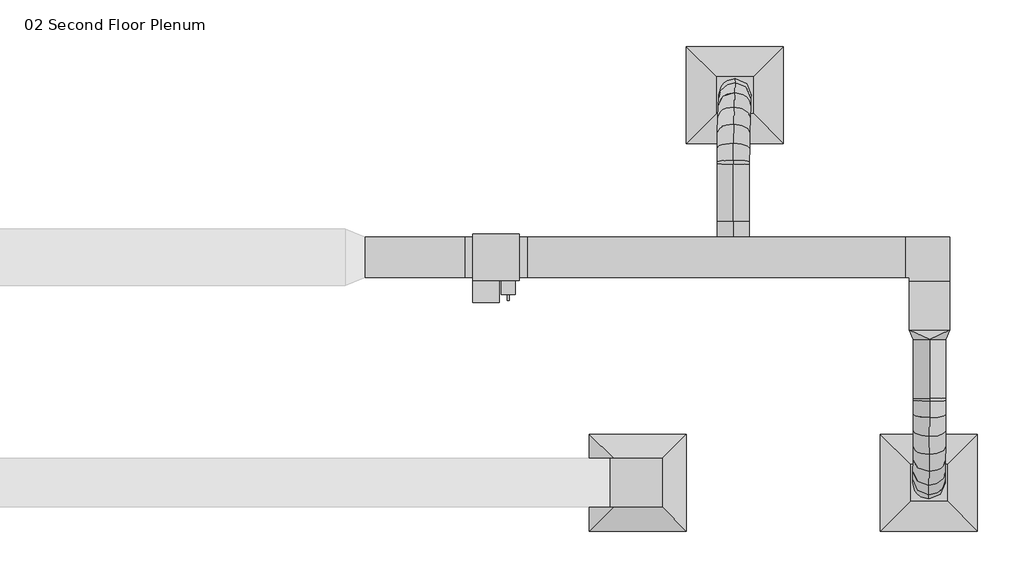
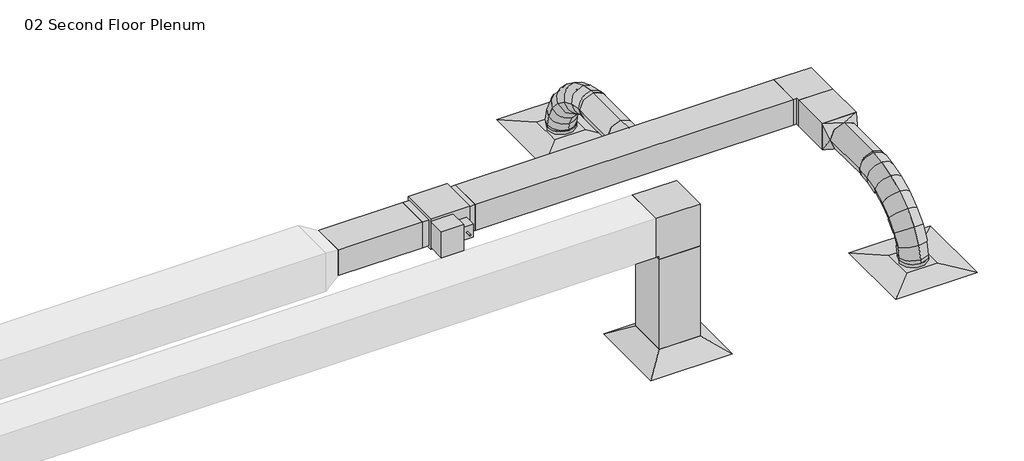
# One storey, part 12 of 12: 8 duct segments, 4 duct fittings, 3 air terminals, 1 proxy.
"""IFC4 building model written with IfcOpenShell, lengths in millimetres."""

from ifc_helpers import new_model, si_unit, point, frame, frame_2d, origin, place, context, project, spatial, polyline, circle_curve, ellipse_curve, trimmed, segment, composite_curve, outline, extrude, transform, mapped, element, save
from ifc_brep_helpers import plane_surface, cylinder_surface, advanced_brep
from components import return_diffuser_d30_returndiffuser_24x24_12x12_connection_ff543d60, supply_diffuser_rectangular_face_round_neck_d30_6390248a, bcn6785_vav_d30_vav1_8c327968, rectangular_elbow_mitered_standard_f09b78ec, rectangular_elbow_mitered_standard_4ff1c4e8, rectangular_to_round_transition_angle_45_degree_e9430680, round_takeoff_standard_d3b0d0f9

model = new_model("IFC4")

# Units and contexts
model_context = context("Model", 3, world=origin())
ifc_project = project(units=[si_unit("LENGTHUNIT", "METRE", prefix="MILLI")], contexts=[model_context])

# Site, building, storey
site = spatial("IfcSite", under=ifc_project)
building = spatial("IfcBuilding", under=site)
storey = spatial("IfcBuildingStorey", under=building, Name="02 Second Floor Plenum", Elevation=3048.0)

# Air terminals
placement = place(None, origin())
return_diffuser_d30_returndiffuser_24x24_12x12_connection_shape = return_diffuser_d30_returndiffuser_24x24_12x12_connection_ff543d60(model_context)
element("IfcAirTerminal", 1, ObjectType="Return Diffuser : D30_ReturnDiffuser_24x24 12x12 Connection", at=placement, inside=storey, context=model_context, shape_type="MappedRepresentation", body=[
    mapped(return_diffuser_d30_returndiffuser_24x24_12x12_connection_shape, transform((17791.3207383, 5144.0921675, 3048.0), x_axis=(0.0, 1.0, 0.0), y_axis=(-1.0, 0.0, 0.0), z_axis=(0.0, 0.0, 1.0))),
])
supply_diffuser_rectangular_face_round_neck_d30_shape = supply_diffuser_rectangular_face_round_neck_d30_6390248a(model_context)
element("IfcAirTerminal", 2, ObjectType="Supply Diffuser - Rectangular Face Round Neck : D30_SupplyDiffuser_24x24 8 Neck", at=placement, inside=storey, context=model_context, shape_type="MappedRepresentation", body=[
    mapped(supply_diffuser_rectangular_face_round_neck_d30_shape, transform((19620.1207383, 5144.0921675, 3048.0), x_axis=(1.0, 0.0, 0.0), y_axis=(0.0, 1.0, 0.0), z_axis=(0.0, 0.0, 1.0))),
])
element("IfcAirTerminal", 3, ObjectType="Supply Diffuser - Rectangular Face Round Neck : D30_SupplyDiffuser_24x24 8 Neck", at=placement, inside=storey, context=model_context, shape_type="MappedRepresentation", body=[
    mapped(supply_diffuser_rectangular_face_round_neck_d30_shape, transform((18400.9207383, 7582.4921675, 3048.0), x_axis=(1.0, 0.0, 0.0), y_axis=(0.0, 1.0, 0.0), z_axis=(0.0, 0.0, 1.0))),
])

# Proxy
bcn6785_vav_d30_vav1_shape = bcn6785_vav_d30_vav1_8c327968(model_context)
element("IfcBuildingElementProxy", 4, Name="BCN6785_VAV : D30_VAV1", ObjectType="BCN6785_VAV : D30_VAV1", at=placement, inside=storey, context=model_context, shape_type="MappedRepresentation", body=[
    mapped(bcn6785_vav_d30_vav1_shape, transform((16754.2057059, 6562.2580171, 3384.55), x_axis=(1.0, 0.0, 0.0), y_axis=(0.0, 1.0, 0.0), z_axis=(0.0, 0.0, 1.0))),
])

# Duct fittings
rectangular_elbow_mitered_standard_shape = rectangular_elbow_mitered_standard_f09b78ec(model_context)
element("IfcDuctFitting", 5, ObjectType="Rectangular Elbow - Mitered : Standard", at=placement, inside=storey, context=model_context, shape_type="MappedRepresentation", body=[
    mapped(rectangular_elbow_mitered_standard_shape, transform((19624.4057059, 6562.2580171, 3505.2), x_axis=(0.0, 1.0, 0.0), y_axis=(-1.0, 0.0, 0.0), z_axis=(0.0, 0.0, 1.0))),
])
rectangular_elbow_mitered_standard_2_shape = rectangular_elbow_mitered_standard_4ff1c4e8(model_context)
element("IfcDuctFitting", 6, ObjectType="Rectangular Elbow - Mitered : Standard", at=placement, inside=storey, context=model_context, shape_type="MappedRepresentation", body=[
    mapped(rectangular_elbow_mitered_standard_2_shape, transform((17791.3207383, 5144.0921675, 4038.6), x_axis=(0.0, 0.0, 1.0), y_axis=(-1.0, 0.0, 0.0), z_axis=(0.0, -1.0, 0.0))),
])
rectangular_to_round_transition_angle_45_degree_shape = rectangular_to_round_transition_angle_45_degree_e9430680(model_context)
element("IfcDuctFitting", 7, ObjectType="Rectangular to Round Transition - Angle : 45 Degree", at=placement, inside=storey, context=model_context, shape_type="MappedRepresentation", body=[
    mapped(rectangular_to_round_transition_angle_45_degree_shape, transform((19624.4057059, 6105.0580171, 3505.2), x_axis=(0.0, -1.0, 0.0), y_axis=(1.0, 0.0, 0.0), z_axis=(0.0, 0.0, 1.0))),
])
round_takeoff_standard_shape = round_takeoff_standard_d3b0d0f9(model_context)
element("IfcDuctFitting", 8, ObjectType="Round Takeoff : Standard", at=placement, inside=storey, context=model_context, shape_type="MappedRepresentation", body=[
    mapped(round_takeoff_standard_shape, transform((18390.079689, 6689.2580171, 3505.2), x_axis=(0.0, 1.0, 0.0), y_axis=(1.0, 0.0, 0.0), z_axis=(0.0, 0.0, -1.0))),
])

# Duct segments
element("IfcDuctSegment", 9, ObjectType="Flex - Round", at=placement, inside=storey, context=model_context, shape_type="AdvancedBrep", body=[
    advanced_brep(
    [(19726.0057059, 5673.2580171, 3505.2), (19624.4057059, 5673.2580171, 3403.6), (19522.8057059, 5673.2580171, 3505.2), (19624.4057059, 5673.2580171, 3606.8), (19726.0057059, 5662.2215462, 3505.2), (19624.4057059, 5668.4942079, 3403.6), (19522.8057059, 5662.4938473, 3505.2), (19624.4057059, 5656.2211856, 3606.8), (19721.7172264, 5143.2474113, 3101.975), (19619.2759822, 5042.4956794, 3101.975), (19518.5242503, 5144.9369236, 3101.975), (19620.9654945, 5245.6886555, 3101.975), (19725.7675584, 5573.6890852, 3494.4663275), (19624.2074999, 5594.8102099, 3394.6665547), (19522.5691341, 5574.5471663, 3494.5373475), (19624.1291925, 5553.4260416, 3594.3371204), (19725.1539044, 5470.6844015, 3463.9424993), (19623.6903614, 5508.0060932, 3368.9435113), (19521.9585116, 5472.0513315, 3464.1643086), (19623.4220546, 5434.7296398, 3559.1632966), (19724.3156295, 5371.0480491, 3416.140479), (19622.977943, 5423.3288987, 3328.3183692), (19521.1227758, 5372.7167791, 3416.5070814), (19622.4604623, 5320.4359295, 3504.3291911), (19723.4029673, 5281.6338857, 3353.5506611), (19622.2173556, 5348.8136085, 3276.1577465), (19520.211516, 5283.4400009, 3354.013433), (19621.3971276, 5216.260278, 3431.4063476), (19722.565917, 5209.2996828, 3278.6618738), (19621.5611629, 5292.1083268, 3217.4498377), (19519.3745556, 5211.1135747, 3279.132697), (19620.3793096, 5128.3049307, 3340.3447331), (19721.9542219, 5160.8947664, 3193.9645238), (19621.1190449, 5257.1224568, 3156.2326991), (19518.7619742, 5162.6385241, 3194.3126284), (19619.5971512, 5066.4108337, 3232.0444531), (19721.7172264, 5143.2474113, 3121.0501108), (19620.9654945, 5245.6886555, 3108.9911209), (19518.5242503, 5144.9369236, 3121.1740873), (19619.2759822, 5042.4956794, 3133.2330772)],
    [
        (0, 1, circle_curve(frame((19624.4057059, 5673.2580171, 3505.2), z_axis=(0.0, 1.0, 0.0), x_axis=(1.0, 0.0, 0.0)), 101.6)),
        (1, 2, circle_curve(frame((19624.4057059, 5673.2580171, 3505.2), z_axis=(0.0, 1.0, 0.0), x_axis=(1.0, 0.0, 0.0)), 101.6)),
        (2, 3, circle_curve(frame((19624.4057059, 5673.2580171, 3505.2), z_axis=(0.0, 1.0, 0.0), x_axis=(1.0, 0.0, 0.0)), 101.6)),
        (3, 0, circle_curve(frame((19624.4057059, 5673.2580171, 3505.2), z_axis=(0.0, 1.0, 0.0), x_axis=(1.0, 0.0, 0.0)), 101.6)),
        (0, 4),
        (4, 5, ellipse_curve(frame((19624.4057059, 5662.3576968, 3505.2), z_axis=(0.00133762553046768, 0.9981800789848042, 0.06028881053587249), x_axis=(-0.022141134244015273, 0.06030364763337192, -0.9979344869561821)), 101.7852411, 101.6)),
        (5, 1),
        (5, 6, ellipse_curve(frame((19624.4057059, 5662.3576968, 3505.2), z_axis=(0.00133762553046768, 0.9981800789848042, 0.06028881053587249), x_axis=(-0.022141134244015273, 0.06030364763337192, -0.9979344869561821)), 101.7852411, 101.6)),
        (6, 2),
        (6, 7, ellipse_curve(frame((19624.4057059, 5662.3576968, 3505.2), z_axis=(0.00133762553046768, 0.9981800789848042, 0.06028881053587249), x_axis=(-0.022141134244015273, 0.06030364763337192, -0.9979344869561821)), 101.7852411, 101.6)),
        (7, 3),
        (7, 4, ellipse_curve(frame((19624.4057059, 5662.3576968, 3505.2), z_axis=(0.00133762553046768, 0.9981800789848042, 0.06028881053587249), x_axis=(-0.022141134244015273, 0.06030364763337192, -0.9979344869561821)), 101.7852411, 101.6)),
        (8, 9, circle_curve(frame((19620.1207383, 5144.0921675, 3101.975), z_axis=(0.0, 0.0, -1.0), x_axis=(0.9999654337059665, -0.0083145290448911, 0.0)), 101.6)),
        (9, 10, circle_curve(frame((19620.1207383, 5144.0921675, 3101.975), z_axis=(0.0, 0.0, -1.0), x_axis=(0.9999654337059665, -0.0083145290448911, 0.0)), 101.6)),
        (10, 11, circle_curve(frame((19620.1207383, 5144.0921675, 3101.975), z_axis=(0.0, 0.0, -1.0), x_axis=(0.9999654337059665, -0.0083145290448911, 0.0)), 101.6)),
        (11, 8, circle_curve(frame((19620.1207383, 5144.0921675, 3101.975), z_axis=(0.0, 0.0, -1.0), x_axis=(0.9999654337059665, -0.0083145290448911, 0.0)), 101.6)),
        (4, 12),
        (12, 13, ellipse_curve(frame((19624.1683462, 5574.1181257, 3494.5018375), z_axis=(0.004205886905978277, 0.9791803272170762, 0.20294875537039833), x_axis=(-0.018183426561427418, 0.20299188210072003, -0.9790115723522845)), 101.9572107, 101.6)),
        (13, 5),
        (13, 14, ellipse_curve(frame((19624.1683462, 5574.1181257, 3494.5018375), z_axis=(0.004205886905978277, 0.9791803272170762, 0.20294875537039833), x_axis=(-0.018183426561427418, 0.20299188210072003, -0.9790115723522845)), 101.9572107, 101.6)),
        (14, 6),
        (14, 15, ellipse_curve(frame((19624.1683462, 5574.1181257, 3494.5018375), z_axis=(0.004205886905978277, 0.9791803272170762, 0.20294875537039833), x_axis=(-0.018183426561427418, 0.20299188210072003, -0.9790115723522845)), 101.9572107, 101.6)),
        (15, 7),
        (15, 12, ellipse_curve(frame((19624.1683462, 5574.1181257, 3494.5018375), z_axis=(0.004205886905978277, 0.9791803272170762, 0.20294875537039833), x_axis=(-0.018183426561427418, 0.20299188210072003, -0.9790115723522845)), 101.9572107, 101.6)),
        (12, 16),
        (16, 17, ellipse_curve(frame((19623.556208, 5471.3678665, 3464.053404), z_axis=(0.0066697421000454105, 0.9331325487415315, 0.3594706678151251), x_axis=(-0.01177651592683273, 0.35952703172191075, -0.9330603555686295)), 101.9229154, 101.6)),
        (17, 13),
        (17, 18, ellipse_curve(frame((19623.556208, 5471.3678665, 3464.053404), z_axis=(0.0066697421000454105, 0.9331325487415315, 0.3594706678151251), x_axis=(-0.01177651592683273, 0.35952703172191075, -0.9330603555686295)), 101.9229154, 101.6)),
        (18, 14),
        (18, 19, ellipse_curve(frame((19623.556208, 5471.3678665, 3464.053404), z_axis=(0.0066697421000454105, 0.9331325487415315, 0.3594706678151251), x_axis=(-0.01177651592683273, 0.35952703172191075, -0.9330603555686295)), 101.9229154, 101.6)),
        (19, 15),
        (19, 16, ellipse_curve(frame((19623.556208, 5471.3678665, 3464.053404), z_axis=(0.0066697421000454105, 0.9331325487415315, 0.3594706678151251), x_axis=(-0.01177651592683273, 0.35952703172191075, -0.9330603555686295)), 101.9229154, 101.6)),
        (16, 20),
        (20, 21, ellipse_curve(frame((19622.7192027, 5371.8824141, 3416.3237802), z_axis=(0.008000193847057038, 0.8632710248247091, 0.5046772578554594), x_axis=(-0.00475714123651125, 0.5047205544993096, -0.863269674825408)), 101.9400009, 101.6)),
        (21, 17),
        (21, 22, ellipse_curve(frame((19622.7192027, 5371.8824141, 3416.3237802), z_axis=(0.008000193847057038, 0.8632710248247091, 0.5046772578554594), x_axis=(-0.00475714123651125, 0.5047205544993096, -0.863269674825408)), 101.9400009, 101.6)),
        (22, 18),
        (22, 23, ellipse_curve(frame((19622.7192027, 5371.8824141, 3416.3237802), z_axis=(0.008000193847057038, 0.8632710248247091, 0.5046772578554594), x_axis=(-0.00475714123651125, 0.5047205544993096, -0.863269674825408)), 101.9400009, 101.6)),
        (23, 19),
        (23, 20, ellipse_curve(frame((19622.7192027, 5371.8824141, 3416.3237802), z_axis=(0.008000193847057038, 0.8632710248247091, 0.5046772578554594), x_axis=(-0.00475714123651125, 0.5047205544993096, -0.863269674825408)), 101.9400009, 101.6)),
        (20, 24),
        (24, 25, ellipse_curve(frame((19621.8072416, 5282.5369433, 3353.782047), z_axis=(0.008238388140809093, 0.760459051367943, 0.6493336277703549), x_axis=(0.0016823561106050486, 0.6493442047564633, -0.7604927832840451)), 102.0700598, 101.6)),
        (25, 21),
        (25, 26, ellipse_curve(frame((19621.8072416, 5282.5369433, 3353.782047), z_axis=(0.008238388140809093, 0.760459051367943, 0.6493336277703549), x_axis=(0.0016823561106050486, 0.6493442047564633, -0.7604927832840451)), 102.0700598, 101.6)),
        (26, 22),
        (26, 27, ellipse_curve(frame((19621.8072416, 5282.5369433, 3353.782047), z_axis=(0.008238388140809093, 0.760459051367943, 0.6493336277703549), x_axis=(0.0016823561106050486, 0.6493442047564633, -0.7604927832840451)), 102.0700598, 101.6)),
        (27, 23),
        (27, 24, ellipse_curve(frame((19621.8072416, 5282.5369433, 3353.782047), z_axis=(0.008238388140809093, 0.760459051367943, 0.6493336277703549), x_axis=(0.0016823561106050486, 0.6493442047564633, -0.7604927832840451)), 102.0700598, 101.6)),
        (24, 28),
        (28, 29, ellipse_curve(frame((19620.9702363, 5210.2066288, 3278.8972854), z_axis=(0.007210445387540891, 0.6000834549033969, 0.7999049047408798), x_axis=(0.0071269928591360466, 0.7998745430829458, -0.6001249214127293)), 102.3915351, 101.6)),
        (29, 25),
        (29, 30, ellipse_curve(frame((19620.9702363, 5210.2066288, 3278.8972854), z_axis=(0.007210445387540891, 0.6000834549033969, 0.7999049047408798), x_axis=(0.0071269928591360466, 0.7998745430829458, -0.6001249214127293)), 102.3915351, 101.6)),
        (30, 26),
        (30, 31, ellipse_curve(frame((19620.9702363, 5210.2066288, 3278.8972854), z_axis=(0.007210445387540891, 0.6000834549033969, 0.7999049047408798), x_axis=(0.0071269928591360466, 0.7998745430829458, -0.6001249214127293)), 102.3915351, 101.6)),
        (31, 27),
        (31, 28, ellipse_curve(frame((19620.9702363, 5210.2066288, 3278.8972854), z_axis=(0.007210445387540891, 0.6000834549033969, 0.7999049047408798), x_axis=(0.0071269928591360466, 0.7998745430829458, -0.6001249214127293)), 102.3915351, 101.6)),
        (28, 32),
        (32, 33, ellipse_curve(frame((19620.3580981, 5161.7666453, 3194.1385761), z_axis=(0.00476184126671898, 0.3693664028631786, 0.9292716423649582), x_axis=(0.011078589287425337, 0.9292056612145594, -0.36939694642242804)), 102.6166077, 101.6)),
        (33, 29),
        (33, 34, ellipse_curve(frame((19620.3580981, 5161.7666453, 3194.1385761), z_axis=(0.00476184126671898, 0.3693664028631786, 0.9292716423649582), x_axis=(0.011078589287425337, 0.9292056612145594, -0.36939694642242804)), 102.6166077, 101.6)),
        (34, 30),
        (34, 35, ellipse_curve(frame((19620.3580981, 5161.7666453, 3194.1385761), z_axis=(0.00476184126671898, 0.3693664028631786, 0.9292716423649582), x_axis=(0.011078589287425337, 0.9292056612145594, -0.36939694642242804)), 102.6166077, 101.6)),
        (35, 31),
        (35, 32, ellipse_curve(frame((19620.3580981, 5161.7666453, 3194.1385761), z_axis=(0.00476184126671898, 0.3693664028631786, 0.9292716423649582), x_axis=(0.011078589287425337, 0.9292056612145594, -0.36939694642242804)), 102.6166077, 101.6)),
        (32, 36),
        (36, 37, ellipse_curve(frame((19620.1207383, 5144.0921675, 3121.1120991), z_axis=(0.00159075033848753, 0.11845178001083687, 0.9929585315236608), x_axis=(0.013333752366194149, 0.9928690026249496, -0.11846246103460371)), 102.3204865, 101.6)),
        (37, 33),
        (37, 38, ellipse_curve(frame((19620.1207383, 5144.0921675, 3121.1120991), z_axis=(0.00159075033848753, 0.11845178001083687, 0.9929585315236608), x_axis=(0.013333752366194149, 0.9928690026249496, -0.11846246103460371)), 102.3204865, 101.6)),
        (38, 34),
        (38, 39, ellipse_curve(frame((19620.1207383, 5144.0921675, 3121.1120991), z_axis=(0.00159075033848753, 0.11845178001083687, 0.9929585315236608), x_axis=(0.013333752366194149, 0.9928690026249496, -0.11846246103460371)), 102.3204865, 101.6)),
        (39, 35),
        (39, 36, ellipse_curve(frame((19620.1207383, 5144.0921675, 3121.1120991), z_axis=(0.00159075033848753, 0.11845178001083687, 0.9929585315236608), x_axis=(0.013333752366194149, 0.9928690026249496, -0.11846246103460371)), 102.3204865, 101.6)),
        (36, 8),
        (11, 37),
        (10, 38),
        (9, 39),
    ],
    [
        plane_surface(frame((19522.8057059, 5673.2580171, 3505.2), z_axis=(0.0, 1.0, 0.0), x_axis=(0.0, 0.0, -1.0))),
        cylinder_surface(frame((19624.4057059, 5673.2580171, 3505.2), z_axis=(0.0, 1.0, 0.0), x_axis=(1.0, 0.0, 0.0)), 101.6),
        plane_surface(frame((19620.1207383, 5042.4921675, 3101.975), z_axis=(0.0, 0.0, -1.0), x_axis=(-1.0, 0.0, 0.0))),
        cylinder_surface(frame((19624.4057059, 5662.3576968, 3505.2), z_axis=(0.0026703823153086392, 0.9927269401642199, 0.1203581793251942), x_axis=(0.9999964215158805, -0.0026703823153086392, -0.0001612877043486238)), 101.6),
        cylinder_surface(frame((19624.1683462, 5574.1181257, 3494.5018375), z_axis=(0.005711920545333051, 0.9587725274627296, 0.28411725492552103), x_axis=(0.9999833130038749, -0.0057221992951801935, -0.0007938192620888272)), 101.6),
        cylinder_surface(frame((19623.556208, 5471.3678665, 3464.053404), z_axis=(0.0075853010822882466, 0.9015798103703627, 0.4325463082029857), x_axis=(0.999969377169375, -0.007671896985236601, -0.0015449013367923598)), 101.6),
        cylinder_surface(frame((19622.7192027, 5371.8824141, 3416.3237802), z_axis=(0.00836172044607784, 0.8192036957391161, 0.5734417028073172), x_axis=(0.9999598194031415, -0.008703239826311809, -0.0021478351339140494)), 101.6),
        cylinder_surface(frame((19621.8072416, 5282.5369433, 3353.782047), z_axis=(0.008039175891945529, 0.6947101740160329, 0.7192448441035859), x_axis=(0.9999561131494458, -0.009045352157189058, -0.002439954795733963)), 101.6),
        cylinder_surface(frame((19620.9702363, 5210.2066288, 3278.8972854), z_axis=(0.006270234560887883, 0.49617887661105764, 0.868197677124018), x_axis=(0.999958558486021, -0.008841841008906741, -0.0021686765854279)), 101.6),
        cylinder_surface(frame((19620.3580981, 5161.7666453, 3194.1385761), z_axis=(0.0031590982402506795, 0.23523541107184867, 0.9719332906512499), x_axis=(0.9999635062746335, -0.008458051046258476, -0.0012031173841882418)), 101.6),
        cylinder_surface(frame((19620.1207383, 5144.0921675, 3121.1120991), z_axis=(0.0, 0.0, 1.0), x_axis=(0.9999654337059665, -0.0083145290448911, 0.0)), 101.6),
    ],
    [
        (0, [[1, 2, 3, 4]]),
        (1, [[-1, 5, 6, 7]]),
        (1, [[-2, -7, 8, 9]]),
        (1, [[-3, -9, 10, 11]]),
        (1, [[-4, -11, 12, -5]]),
        (2, [[13, 14, 15, 16]]),
        (3, [[-6, 17, 18, 19]]),
        (3, [[-8, -19, 20, 21]]),
        (3, [[-10, -21, 22, 23]]),
        (3, [[-12, -23, 24, -17]]),
        (4, [[-18, 25, 26, 27]]),
        (4, [[-20, -27, 28, 29]]),
        (4, [[-22, -29, 30, 31]]),
        (4, [[-24, -31, 32, -25]]),
        (5, [[-26, 33, 34, 35]]),
        (5, [[-28, -35, 36, 37]]),
        (5, [[-30, -37, 38, 39]]),
        (5, [[-32, -39, 40, -33]]),
        (6, [[-34, 41, 42, 43]]),
        (6, [[-36, -43, 44, 45]]),
        (6, [[-38, -45, 46, 47]]),
        (6, [[-40, -47, 48, -41]]),
        (7, [[-42, 49, 50, 51]]),
        (7, [[-44, -51, 52, 53]]),
        (7, [[-46, -53, 54, 55]]),
        (7, [[-48, -55, 56, -49]]),
        (8, [[-50, 57, 58, 59]]),
        (8, [[-52, -59, 60, 61]]),
        (8, [[-54, -61, 62, 63]]),
        (8, [[-56, -63, 64, -57]]),
        (9, [[-58, 65, 66, 67]]),
        (9, [[-60, -67, 68, 69]]),
        (9, [[-62, -69, 70, 71]]),
        (9, [[-64, -71, 72, -65]]),
        (10, [[-66, 73, -16, 74]]),
        (10, [[-68, -74, -15, 75]]),
        (10, [[-70, -75, -14, 76]]),
        (10, [[-72, -76, -13, -73]]),
    ],
),
])
element("IfcDuctSegment", 10, ObjectType="Flex - Round", at=placement, inside=storey, context=model_context, shape_type="AdvancedBrep", body=[
    advanced_brep(
    [(18288.479689, 7146.4580171, 3505.2), (18390.079689, 7146.4580171, 3403.6), (18491.679689, 7146.4580171, 3505.2), (18390.079689, 7146.4580171, 3606.8), (18288.479689, 7162.9371521, 3505.2), (18390.079689, 7152.9187405, 3403.6), (18491.679689, 7161.9862739, 3505.2), (18390.079689, 7172.0046855, 3606.8), (18299.3483779, 7584.8618909, 3101.975), (18403.2904617, 7684.0645279, 3101.975), (18502.4930988, 7580.1224441, 3101.975), (18398.5510149, 7480.919807, 3101.975), (18289.291684, 7248.9303578, 3488.9017057), (18390.6849964, 7217.0229763, 3391.4503227), (18492.4737753, 7246.082882, 3489.2611679), (18391.080463, 7277.9902635, 3586.712551), (18291.3139409, 7349.6573191, 3444.1560436), (18392.2763616, 7296.2875785, 3356.2388256), (18494.4667219, 7345.3499255, 3445.1640411), (18393.5043012, 7398.7196661, 3533.0812591), (18293.9339054, 7441.2309472, 3377.0751154), (18394.3902451, 7370.1725396, 3302.1154729), (18497.0665219, 7436.2187554, 3378.5994025), (18396.6101822, 7507.2771629, 3453.5590451), (18296.5459392, 7516.0138273, 3293.6836973), (18396.4706968, 7429.7361553, 3235.6952659), (18499.6742526, 7510.8784403, 3295.345361), (18399.749495, 7597.1561124, 3353.3337924), (18298.5494148, 7566.4072059, 3199.9554954), (18397.9949465, 7468.0755752, 3164.3865941), (18501.6859805, 7561.4793879, 3201.2310952), (18402.2404488, 7659.8110185, 3236.7999966), (18299.3483779, 7584.8618909, 3120.5398799), (18398.5510149, 7480.919807, 3109.114311), (18502.4930988, 7580.1224441, 3121.0048664), (18403.2904617, 7684.0645279, 3132.4304352)],
    [
        (0, 1, circle_curve(frame((18390.079689, 7146.4580171, 3505.2), z_axis=(0.0, -1.0, 0.0), x_axis=(-1.0, 0.0, 0.0)), 101.6)),
        (1, 2, circle_curve(frame((18390.079689, 7146.4580171, 3505.2), z_axis=(0.0, -1.0, 0.0), x_axis=(-1.0, 0.0, 0.0)), 101.6)),
        (2, 3, circle_curve(frame((18390.079689, 7146.4580171, 3505.2), z_axis=(0.0, -1.0, 0.0), x_axis=(-1.0, 0.0, 0.0)), 101.6)),
        (3, 0, circle_curve(frame((18390.079689, 7146.4580171, 3505.2), z_axis=(0.0, -1.0, 0.0), x_axis=(-1.0, 0.0, 0.0)), 101.6)),
        (0, 4),
        (4, 5, ellipse_curve(frame((18390.079689, 7162.461713, 3505.2), z_axis=(-0.004658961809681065, -0.9956070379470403, 0.09351427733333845), x_axis=(0.049540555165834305, -0.09363026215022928, -0.9943737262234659)), 102.0482943, 101.6)),
        (5, 1),
        (5, 6, ellipse_curve(frame((18390.079689, 7162.461713, 3505.2), z_axis=(-0.004658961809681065, -0.9956070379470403, 0.09351427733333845), x_axis=(0.049540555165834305, -0.09363026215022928, -0.9943737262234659)), 102.0482943, 101.6)),
        (6, 2),
        (6, 7, ellipse_curve(frame((18390.079689, 7162.461713, 3505.2), z_axis=(-0.004658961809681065, -0.9956070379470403, 0.09351427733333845), x_axis=(0.049540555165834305, -0.09363026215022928, -0.9943737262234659)), 102.0482943, 101.6)),
        (7, 3),
        (7, 4, ellipse_curve(frame((18390.079689, 7162.461713, 3505.2), z_axis=(-0.004658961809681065, -0.9956070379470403, 0.09351427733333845), x_axis=(0.049540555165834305, -0.09363026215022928, -0.9943737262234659)), 102.0482943, 101.6)),
        (8, 9, circle_curve(frame((18400.9207383, 7582.4921675, 3101.975), z_axis=(0.0, 0.0, -1.0), x_axis=(-0.9997279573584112, 0.02332404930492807, 0.0)), 101.6)),
        (9, 10, circle_curve(frame((18400.9207383, 7582.4921675, 3101.975), z_axis=(0.0, 0.0, -1.0), x_axis=(-0.9997279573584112, 0.02332404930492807, 0.0)), 101.6)),
        (10, 11, circle_curve(frame((18400.9207383, 7582.4921675, 3101.975), z_axis=(0.0, 0.0, -1.0), x_axis=(-0.9997279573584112, 0.02332404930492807, 0.0)), 101.6)),
        (11, 8, circle_curve(frame((18400.9207383, 7582.4921675, 3101.975), z_axis=(0.0, 0.0, -1.0), x_axis=(-0.9997279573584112, 0.02332404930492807, 0.0)), 101.6)),
        (4, 12),
        (12, 13, ellipse_curve(frame((18390.8827297, 7247.5066199, 3489.0814368), z_axis=(-0.013903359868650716, -0.9544522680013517, 0.2980395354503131), x_axis=(0.03935997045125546, -0.2983597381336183, -0.9536415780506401)), 102.2808191, 101.6)),
        (13, 5),
        (13, 14, ellipse_curve(frame((18390.8827297, 7247.5066199, 3489.0814368), z_axis=(-0.013903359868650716, -0.9544522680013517, 0.2980395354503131), x_axis=(0.03935997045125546, -0.2983597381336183, -0.9536415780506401)), 102.2808191, 101.6)),
        (14, 6),
        (14, 15, ellipse_curve(frame((18390.8827297, 7247.5066199, 3489.0814368), z_axis=(-0.013903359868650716, -0.9544522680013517, 0.2980395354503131), x_axis=(0.03935997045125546, -0.2983597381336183, -0.9536415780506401)), 102.2808191, 101.6)),
        (15, 7),
        (15, 12, ellipse_curve(frame((18390.8827297, 7247.5066199, 3489.0814368), z_axis=(-0.013903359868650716, -0.9544522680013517, 0.2980395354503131), x_axis=(0.03935997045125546, -0.2983597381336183, -0.9536415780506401)), 102.2808191, 101.6)),
        (12, 16),
        (16, 17, ellipse_curve(frame((18392.8903314, 7347.5036223, 3444.6600424), z_axis=(-0.020828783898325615, -0.865070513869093, 0.5012176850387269), x_axis=(0.022123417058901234, -0.5016024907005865, -0.8648152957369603)), 102.185455, 101.6)),
        (17, 13),
        (17, 18, ellipse_curve(frame((18392.8903314, 7347.5036223, 3444.6600424), z_axis=(-0.020828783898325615, -0.865070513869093, 0.5012176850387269), x_axis=(0.022123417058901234, -0.5016024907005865, -0.8648152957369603)), 102.185455, 101.6)),
        (18, 14),
        (18, 19, ellipse_curve(frame((18392.8903314, 7347.5036223, 3444.6600424), z_axis=(-0.020828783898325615, -0.865070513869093, 0.5012176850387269), x_axis=(0.022123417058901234, -0.5016024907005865, -0.8648152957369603)), 102.185455, 101.6)),
        (19, 15),
        (19, 16, ellipse_curve(frame((18392.8903314, 7347.5036223, 3444.6600424), z_axis=(-0.020828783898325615, -0.865070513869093, 0.5012176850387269), x_axis=(0.022123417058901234, -0.5016024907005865, -0.8648152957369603)), 102.185455, 101.6)),
        (16, 20),
        (20, 21, ellipse_curve(frame((18395.5002137, 7438.7248513, 3377.837259), z_axis=(-0.023318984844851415, -0.740958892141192, 0.6711453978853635), x_axis=(0.00115256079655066, -0.6713474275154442, -0.7411418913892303)), 102.1491885, 101.6)),
        (21, 17),
        (21, 22, ellipse_curve(frame((18395.5002137, 7438.7248513, 3377.837259), z_axis=(-0.023318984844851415, -0.740958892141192, 0.6711453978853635), x_axis=(0.00115256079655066, -0.6713474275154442, -0.7411418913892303)), 102.1491885, 101.6)),
        (22, 18),
        (22, 23, ellipse_curve(frame((18395.5002137, 7438.7248513, 3377.837259), z_axis=(-0.023318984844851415, -0.740958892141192, 0.6711453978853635), x_axis=(0.00115256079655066, -0.6713474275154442, -0.7411418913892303)), 102.1491885, 101.6)),
        (23, 19),
        (23, 20, ellipse_curve(frame((18395.5002137, 7438.7248513, 3377.837259), z_axis=(-0.023318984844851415, -0.740958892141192, 0.6711453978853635), x_axis=(0.00115256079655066, -0.6713474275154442, -0.7411418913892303)), 102.1491885, 101.6)),
        (20, 24),
        (24, 25, ellipse_curve(frame((18398.1100959, 7513.4461338, 3294.5145291), z_axis=(-0.02121786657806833, -0.5745119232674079, 0.8182211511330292), x_axis=(-0.01893196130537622, -0.8180277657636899, -0.5748670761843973)), 102.3218214, 101.6)),
        (25, 21),
        (25, 26, ellipse_curve(frame((18398.1100959, 7513.4461338, 3294.5145291), z_axis=(-0.02121786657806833, -0.5745119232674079, 0.8182211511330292), x_axis=(-0.01893196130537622, -0.8180277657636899, -0.5748670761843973)), 102.3218214, 101.6)),
        (26, 22),
        (26, 27, ellipse_curve(frame((18398.1100959, 7513.4461338, 3294.5145291), z_axis=(-0.02121786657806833, -0.5745119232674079, 0.8182211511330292), x_axis=(-0.01893196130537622, -0.8180277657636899, -0.5748670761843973)), 102.3218214, 101.6)),
        (27, 23),
        (27, 24, ellipse_curve(frame((18398.1100959, 7513.4461338, 3294.5145291), z_axis=(-0.02121786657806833, -0.5745119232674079, 0.8182211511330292), x_axis=(-0.01893196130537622, -0.8180277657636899, -0.5748670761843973)), 102.3218214, 101.6)),
        (24, 28),
        (28, 29, ellipse_curve(frame((18400.1176976, 7563.9432969, 3200.5932953), z_axis=(-0.014437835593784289, -0.3529986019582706, 0.9355124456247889), x_axis=(-0.03414002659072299, -0.9348904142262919, -0.35329077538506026)), 102.4991954, 101.6)),
        (29, 25),
        (29, 30, ellipse_curve(frame((18400.1176976, 7563.9432969, 3200.5932953), z_axis=(-0.014437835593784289, -0.3529986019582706, 0.9355124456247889), x_axis=(-0.03414002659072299, -0.9348904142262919, -0.35329077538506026)), 102.4991954, 101.6)),
        (30, 26),
        (30, 31, ellipse_curve(frame((18400.1176976, 7563.9432969, 3200.5932953), z_axis=(-0.014437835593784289, -0.3529986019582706, 0.9355124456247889), x_axis=(-0.03414002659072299, -0.9348904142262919, -0.35329077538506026)), 102.4991954, 101.6)),
        (31, 27),
        (31, 28, ellipse_curve(frame((18400.1176976, 7563.9432969, 3200.5932953), z_axis=(-0.014437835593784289, -0.3529986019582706, 0.9355124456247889), x_axis=(-0.03414002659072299, -0.9348904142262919, -0.35329077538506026)), 102.4991954, 101.6)),
        (28, 32),
        (32, 33, ellipse_curve(frame((18400.9207383, 7582.4921675, 3120.7723731), z_axis=(-0.004931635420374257, -0.11391236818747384, 0.9934785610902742), x_axis=(-0.04297065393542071, -0.9925488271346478, -0.11401907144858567)), 102.2669275, 101.6)),
        (33, 29),
        (33, 34, ellipse_curve(frame((18400.9207383, 7582.4921675, 3120.7723731), z_axis=(-0.004931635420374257, -0.11391236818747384, 0.9934785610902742), x_axis=(-0.04297065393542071, -0.9925488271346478, -0.11401907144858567)), 102.2669275, 101.6)),
        (34, 30),
        (34, 35, ellipse_curve(frame((18400.9207383, 7582.4921675, 3120.7723731), z_axis=(-0.004931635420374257, -0.11391236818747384, 0.9934785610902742), x_axis=(-0.04297065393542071, -0.9925488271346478, -0.11401907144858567)), 102.2669275, 101.6)),
        (35, 31),
        (35, 32, ellipse_curve(frame((18400.9207383, 7582.4921675, 3120.7723731), z_axis=(-0.004931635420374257, -0.11391236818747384, 0.9934785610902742), x_axis=(-0.04297065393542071, -0.9925488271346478, -0.11401907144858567)), 102.2669275, 101.6)),
        (32, 8),
        (11, 33),
        (10, 34),
        (9, 35),
    ],
    [
        plane_surface(frame((18288.479689, 7146.4580171, 3505.2), z_axis=(0.0, -1.0, 0.0), x_axis=(0.0, 0.0, 1.0))),
        cylinder_surface(frame((18390.079689, 7146.4580171, 3505.2), z_axis=(0.0, -1.0, 0.0), x_axis=(-1.0, 0.0, 0.0)), 101.6),
        plane_surface(frame((18400.9207383, 7480.8921675, 3101.975), z_axis=(0.0, 0.0, -1.0), x_axis=(-1.0, 0.0, 0.0))),
        cylinder_surface(frame((18390.079689, 7162.461713, 3505.2), z_axis=(-0.009276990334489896, -0.9824667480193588, 0.1862069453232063), x_axis=(-0.9999565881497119, 0.009276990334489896, -0.000871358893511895)), 101.6),
        cylinder_surface(frame((18390.8827297, 7247.5066199, 3489.0814368), z_axis=(-0.018344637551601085, -0.9137314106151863, 0.40590440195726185), x_axis=(-0.9998234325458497, 0.018417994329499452, -0.003725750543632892)), 101.6),
        cylinder_surface(frame((18392.8903314, 7347.5036223, 3444.6600424), z_axis=(-0.023074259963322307, -0.8064970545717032, 0.5907876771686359), x_axis=(-0.9996974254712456, 0.023651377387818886, -0.006757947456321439)), 101.6),
        cylinder_surface(frame((18395.5002137, 7438.7248513, 3377.837259), z_axis=(-0.023312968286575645, -0.6674534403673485, 0.744286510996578), x_axis=(-0.9996390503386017, 0.025506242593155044, -0.008438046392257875)), 101.6),
        cylinder_surface(frame((18398.1100959, 7513.4461338, 3294.5145291), z_axis=(-0.018823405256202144, -0.47346470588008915, 0.8806116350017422), x_axis=(-0.9996538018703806, 0.02510681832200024, -0.007869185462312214)), 101.6),
        cylinder_surface(frame((18400.1176976, 7563.9432969, 3200.5932953), z_axis=(-0.009798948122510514, -0.22633899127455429, 0.9739993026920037), x_axis=(-0.9997055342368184, 0.023841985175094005, -0.004517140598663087)), 101.6),
        cylinder_surface(frame((18400.9207383, 7582.4921675, 3120.7723731), z_axis=(0.0, 0.0, 1.0), x_axis=(-0.9997279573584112, 0.02332404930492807, 0.0)), 101.6),
    ],
    [
        (0, [[1, 2, 3, 4]]),
        (1, [[-1, 5, 6, 7]]),
        (1, [[-2, -7, 8, 9]]),
        (1, [[-3, -9, 10, 11]]),
        (1, [[-4, -11, 12, -5]]),
        (2, [[13, 14, 15, 16]]),
        (3, [[-6, 17, 18, 19]]),
        (3, [[-8, -19, 20, 21]]),
        (3, [[-10, -21, 22, 23]]),
        (3, [[-12, -23, 24, -17]]),
        (4, [[-18, 25, 26, 27]]),
        (4, [[-20, -27, 28, 29]]),
        (4, [[-22, -29, 30, 31]]),
        (4, [[-24, -31, 32, -25]]),
        (5, [[-26, 33, 34, 35]]),
        (5, [[-28, -35, 36, 37]]),
        (5, [[-30, -37, 38, 39]]),
        (5, [[-32, -39, 40, -33]]),
        (6, [[-34, 41, 42, 43]]),
        (6, [[-36, -43, 44, 45]]),
        (6, [[-38, -45, 46, 47]]),
        (6, [[-40, -47, 48, -41]]),
        (7, [[-42, 49, 50, 51]]),
        (7, [[-44, -51, 52, 53]]),
        (7, [[-46, -53, 54, 55]]),
        (7, [[-48, -55, 56, -49]]),
        (8, [[-50, 57, 58, 59]]),
        (8, [[-52, -59, 60, 61]]),
        (8, [[-54, -61, 62, 63]]),
        (8, [[-56, -63, 64, -57]]),
        (9, [[-58, 65, -16, 66]]),
        (9, [[-60, -66, -15, 67]]),
        (9, [[-62, -67, -14, 68]]),
        (9, [[-64, -68, -13, -65]]),
    ],
),
])
element("IfcDuctSegment", 11, ObjectType="Mitered Elbows / Taps", at=placement, inside=storey, context=model_context, shape_type="SweptSolid", body=[
    extrude(outline(polyline([(17943.7207383, 5296.4921675), (17943.7207383, 4991.6921675), (17638.9207383, 4991.6921675), (17638.9207383, 5296.4921675), (17943.7207383, 5296.4921675)])), frame((0.0, 0.0, 3149.6), z_axis=(0.0, 0.0, 1.0), x_axis=(1.0, 0.0, 0.0)), (0.0, 0.0, 1.0), 711.2),
])
element("IfcDuctSegment", 12, ObjectType="Mitered Elbows / Tees", at=placement, inside=storey, context=model_context, shape_type="SweptSolid", body=[
    extrude(outline(polyline([(16074.9238148, 6435.2580171), (16074.9238148, 6689.2580171), (16703.4057059, 6689.2580171), (16703.4057059, 6435.2580171), (16074.9238148, 6435.2580171)])), frame((0.0, 0.0, 3403.6), z_axis=(0.0, 0.0, 1.0), x_axis=(1.0, 0.0, 0.0)), (0.0, 0.0, 1.0), 203.2),
])
element("IfcDuctSegment", 13, ObjectType="Mitered Elbows / Tees", at=placement, inside=storey, context=model_context, shape_type="SweptSolid", body=[
    extrude(outline(polyline([(17097.1057059, 6435.2580171), (17097.1057059, 6689.2580171), (19472.0057059, 6689.2580171), (19472.0057059, 6435.2580171), (17097.1057059, 6435.2580171)])), frame((0.0, 0.0, 3403.6), z_axis=(0.0, 0.0, 1.0), x_axis=(1.0, 0.0, 0.0)), (0.0, 0.0, 1.0), 203.2),
])
element("IfcDuctSegment", 14, ObjectType="Mitered Elbows / Tees", at=placement, inside=storey, context=model_context, shape_type="SweptSolid", body=[
    extrude(outline(polyline([(19497.4057059, 6409.8580171), (19751.4057059, 6409.8580171), (19751.4057059, 6105.0580171), (19497.4057059, 6105.0580171), (19497.4057059, 6409.8580171)])), frame((0.0, 0.0, 3403.6), z_axis=(0.0, 0.0, 1.0), x_axis=(1.0, 0.0, 0.0)), (0.0, 0.0, 1.0), 203.2),
])
element("IfcDuctSegment", 15, ObjectType="Taps", at=placement, inside=storey, context=model_context, shape_type="SweptSolid", body=[
    extrude(outline(composite_curve([segment(trimmed(circle_curve(frame_2d((3505.2, 19624.4057059)), 101.6), [point((3505.2, 19522.8057059))], [point((3403.6, 19624.4057059))], False, "CARTESIAN"), True, "CONTINUOUS"), segment(trimmed(circle_curve(frame_2d((3505.2, 19624.4057059)), 101.6), [point((3403.6, 19624.4057059))], [point((3505.2, 19726.0057059))], False, "CARTESIAN"), True, "CONTINUOUS"), segment(trimmed(circle_curve(frame_2d((3505.2, 19624.4057059)), 101.6), [point((3505.2, 19726.0057059))], [point((3606.8, 19624.4057059))], False, "CARTESIAN"), True, "CONTINUOUS"), segment(trimmed(circle_curve(frame_2d((3505.2, 19624.4057059)), 101.6), [point((3606.8, 19624.4057059))], [point((3505.2, 19522.8057059))], False, "CARTESIAN"), True, "CONTINUOUS")], self_intersect=False)), frame((0.0, 5673.2580171, 0.0), z_axis=(0.0, 1.0, 0.0), x_axis=(0.0, 0.0, 1.0)), (0.0, 0.0, 1.0), 370.4789755),
])
element("IfcDuctSegment", 16, ObjectType="Taps", at=placement, inside=storey, context=model_context, shape_type="SweptSolid", body=[
    extrude(outline(composite_curve([segment(trimmed(circle_curve(frame_2d((3505.2, 18390.079689)), 101.6), [point((3505.2, 18491.679689))], [point((3606.8, 18390.079689))], False, "CARTESIAN"), True, "CONTINUOUS"), segment(trimmed(circle_curve(frame_2d((3505.2, 18390.079689)), 101.6), [point((3606.8, 18390.079689))], [point((3505.2, 18288.479689))], False, "CARTESIAN"), True, "CONTINUOUS"), segment(trimmed(circle_curve(frame_2d((3505.2, 18390.079689)), 101.6), [point((3505.2, 18288.479689))], [point((3403.6, 18390.079689))], False, "CARTESIAN"), True, "CONTINUOUS"), segment(trimmed(circle_curve(frame_2d((3505.2, 18390.079689)), 101.6), [point((3403.6, 18390.079689))], [point((3505.2, 18491.679689))], False, "CARTESIAN"), True, "CONTINUOUS")], self_intersect=False)), frame((0.0, 6790.8580171, 0.0), z_axis=(0.0, 1.0, 0.0), x_axis=(0.0, 0.0, 1.0)), (0.0, 0.0, 1.0), 355.6),
])

save(model, "model.ifc")
